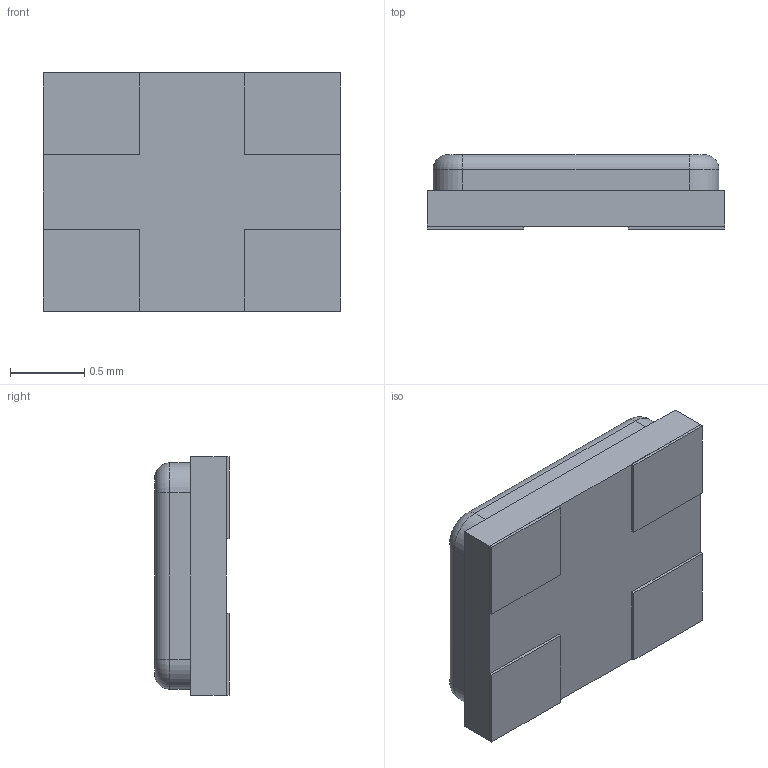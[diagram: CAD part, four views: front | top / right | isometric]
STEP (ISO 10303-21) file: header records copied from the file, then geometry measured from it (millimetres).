
FILE_DESCRIPTION (( 'STEP AP214' ), '1' );
FILE_NAME ( 'XTALDFN4_200X160X50L65X55.STEP', '2021-10-06T06:49:14', ( '' ), ( '' ), '', '©2017 PCB Libraries, Inc.', '' );
FILE_SCHEMA (( 'AUTOMOTIVE_DESIGN' ));
Length unit declared in the file: millimetre
Products named in the file (1): XTALDFN4_200X160X50L65X55
Bounding box: 2 x 0.5 x 1.6 mm (x, y, z)
Volume: 1.5 mm3; surface area: 12.5 mm2
Topology: 5 solids, 5 shells, 50 faces, 106 edges, 68 vertices
Faces by surface type: plane 36, cylinder 8, torus 6
Entity records: 1560 total; most frequent: DIRECTION 234, CARTESIAN_POINT 225, ORIENTED_EDGE 212, EDGE_CURVE 106, VECTOR 80, LINE 80, AXIS2_PLACEMENT_3D 77, VERTEX_POINT 68
